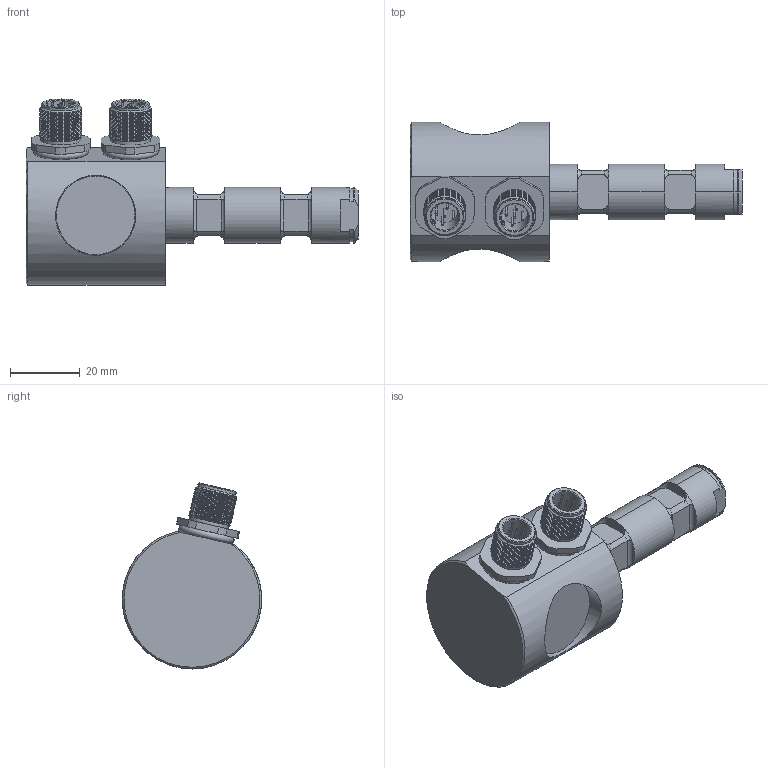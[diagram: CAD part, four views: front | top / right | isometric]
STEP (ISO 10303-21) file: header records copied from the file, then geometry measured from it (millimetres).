
FILE_DESCRIPTION(/* description */ ('Alibre Inc.'),/* implementation_level */ '2;1');
FILE_NAME(/* name */ 'export-6132F01D-233C-4824-974B-03E1B591B8F9',/* time_stamp */ '2025-08-29T08:48:35+02:00',/* author */ (''),/* organization */ (''),/* preprocessor_version */ 'ST-DEVELOPER v17',/* originating_system */ 'Alibre',/* authorisation */ '');
FILE_SCHEMA (('CONFIG_CONTROL_DESIGN'));
Length unit declared in the file: centimetre
Products named in the file (3): mb1677_001(a)
Bounding box: 95.3 x 40 x 53.39 mm (x, y, z)
Surface area: 322552.9 mm2
Topology: 13 solids, 15 shells, 472 faces, 1056 edges, 631 vertices
Faces by surface type: cylinder 176, cone 144, plane 132, torus 20
Full cylindrical faces by diameter (mm): 0.5 x20, 8 x4, 10 x2, 11 x2, 11.5 x2, 12 x42, 13 x4
Entity records: 9234 total; most frequent: CARTESIAN_POINT 2760, ORIENTED_EDGE 1266, DIRECTION 1140, EDGE_CURVE 627, AXIS2_PLACEMENT_3D 524, VERTEX_POINT 431, EDGE_LOOP 428, FACE_BOUND 428
